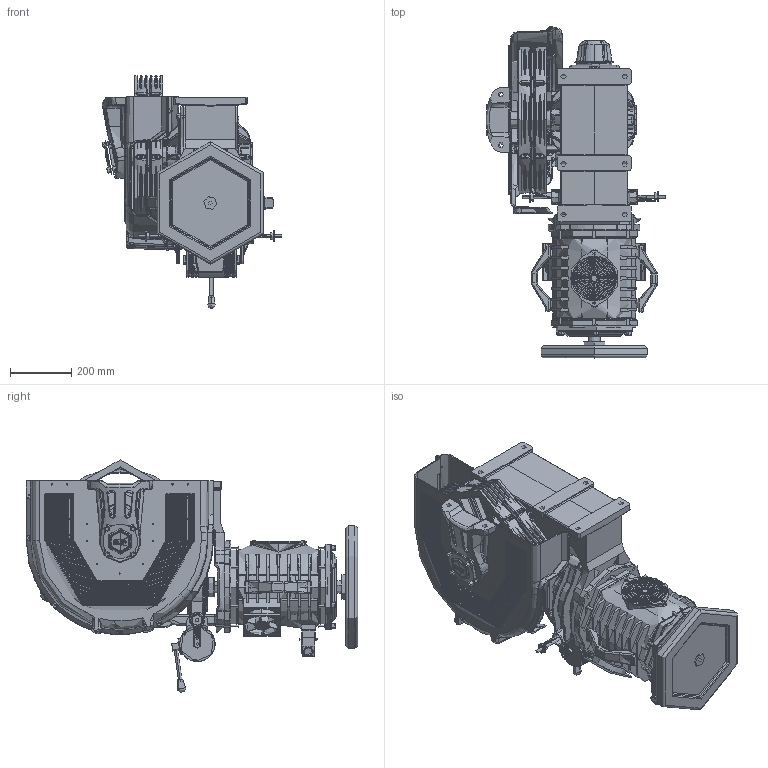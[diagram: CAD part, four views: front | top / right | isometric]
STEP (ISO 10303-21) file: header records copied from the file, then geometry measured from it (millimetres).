
FILE_DESCRIPTION (( 'STEP AP214' ), '1' );
FILE_NAME ('STC90100.STEP', '2026-01-14T09:25:14', ( '' ), ( '' ), 'SwSTEP 2.0', 'SolidWorks 2023', '' );
FILE_SCHEMA (( 'AUTOMOTIVE_DESIGN' ));
Length unit declared in the file: millimetre
Products named in the file (1): STC90100
Bounding box: 586.99 x 1082.56 x 757.88 mm (x, y, z)
Topology: 86 solids, 92 shells, 8068 faces, 19969 edges, 12048 vertices
Faces by surface type: cylinder 2429, plane 2376, bspline 1562, torus 868, cone 657, sphere 176
Full cylindrical faces by diameter (mm): 20 x3
Entity records: 307790 total; most frequent: CARTESIAN_POINT 125358, ORIENTED_EDGE 39644, DIRECTION 36318, EDGE_CURVE 19822, AXIS2_PLACEMENT_3D 14612, VERTEX_POINT 12013, EDGE_LOOP 8947, CIRCLE 8107
